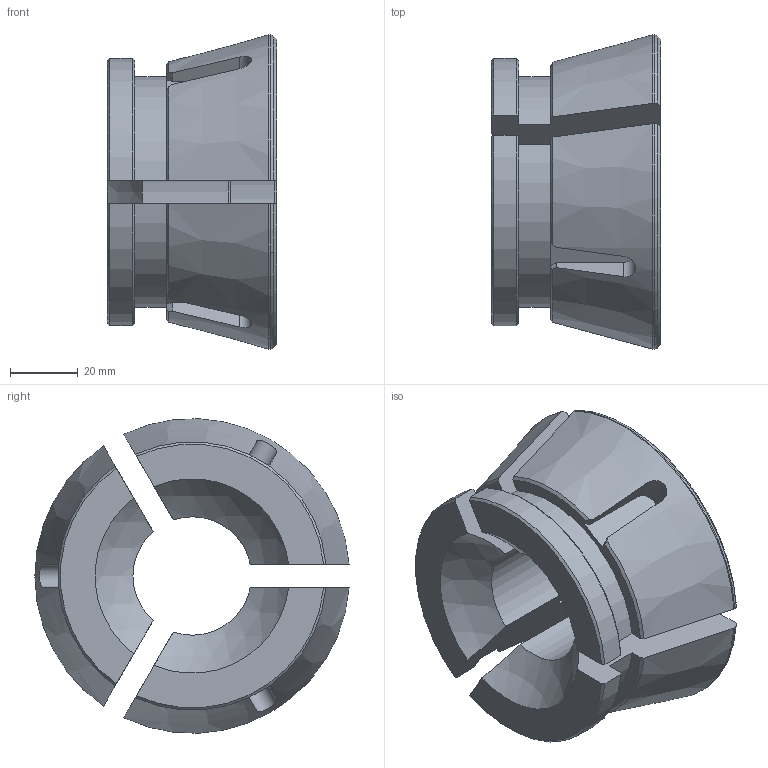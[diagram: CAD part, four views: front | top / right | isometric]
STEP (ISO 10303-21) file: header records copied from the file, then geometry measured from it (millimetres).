
FILE_DESCRIPTION(/* description */ (''),/* implementation_level */ '2;1');
FILE_NAME(/* name */ 'JYEK-93S.stp',/* time_stamp */ '2022-11-14T10:43:18+08:00',/* author */ (''),/* organization */ (''),/* preprocessor_version */ 'ST-DEVELOPER v16.7',/* originating_system */ 'SIEMENS PLM Software NX 12.0',/* authorisation */ '');
FILE_SCHEMA (('AUTOMOTIVE_DESIGN { 1 0 10303 214 3 1 1 1 }'));
Length unit declared in the file: millimetre
Products named in the file (1): _model1
Bounding box: 50 x 92.87 x 92.94 mm (x, y, z)
Volume: 161863.2 mm3; surface area: 35686.6 mm2
Topology: 3 solids, 3 shells, 108 faces, 288 edges, 192 vertices
Faces by surface type: plane 42, cylinder 24, cone 24, torus 15, sphere 3
Full cylindrical faces by diameter (mm): 6.44 x6
Entity records: 4151 total; most frequent: CARTESIAN_POINT 1576, ORIENTED_EDGE 552, DIRECTION 491, EDGE_CURVE 276, AXIS2_PLACEMENT_3D 199, VERTEX_POINT 186, EDGE_LOOP 120, ADVANCED_FACE 108
